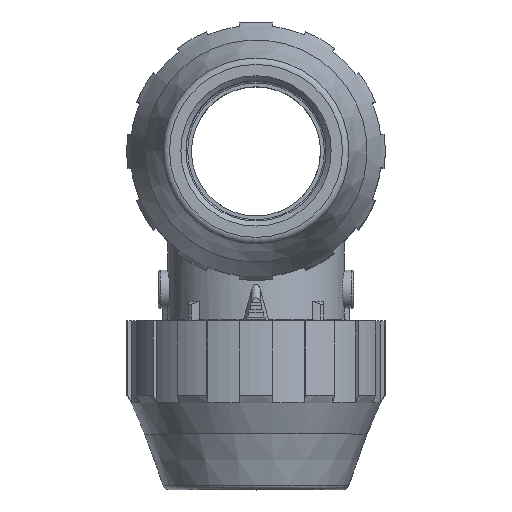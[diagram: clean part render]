
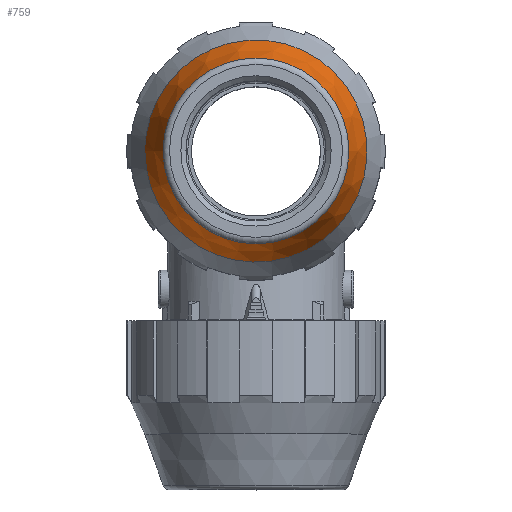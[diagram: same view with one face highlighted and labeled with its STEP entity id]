
A CAD part, top view. The second image highlights one B-rep face of the part: STEP entity #759.
In plain terms, the highlighted conical face has half-angle 19.587 degrees and reference radius 16.34 mm.
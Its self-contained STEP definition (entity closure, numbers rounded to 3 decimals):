
#759 = ADVANCED_FACE( '', ( #1837, #1838 ), #1839, .T. );
#1837 = FACE_OUTER_BOUND( '', #3692, .T. );
#1838 = FACE_BOUND( '', #3693, .T. );
#1839 = CONICAL_SURFACE( '', #3694, 16.34, 0.342 );
#3692 = EDGE_LOOP( '', ( #5889 ) );
#3693 = EDGE_LOOP( '', ( #5890 ) );
#3694 = AXIS2_PLACEMENT_3D( '', #5891, #5892, #5893 );
#5889 = ORIENTED_EDGE( '', *, *, #9619, .F. );
#5890 = ORIENTED_EDGE( '', *, *, #9620, .T. );
#5891 = CARTESIAN_POINT( '', ( 0., 0., 6.754 ) );
#5892 = DIRECTION( '', ( 0., 0., -1. ) );
#5893 = DIRECTION( '', ( -1., 0., 0. ) );
#9619 = EDGE_CURVE( '', #11471, #11471, #11472, .T. );
#9620 = EDGE_CURVE( '', #11473, #11473, #11474, .T. );
#11471 = VERTEX_POINT( '', #14114 );
#11472 = CIRCLE( '', #14115, 16.34 );
#11473 = VERTEX_POINT( '', #14116 );
#11474 = CIRCLE( '', #14117, 13.659 );
#14114 = CARTESIAN_POINT( '', ( -16.34, 0., 6.754 ) );
#14115 = AXIS2_PLACEMENT_3D( '', #17132, #17133, #17134 );
#14116 = CARTESIAN_POINT( '', ( -13.659, 0., 14.287 ) );
#14117 = AXIS2_PLACEMENT_3D( '', #17135, #17136, #17137 );
#17132 = CARTESIAN_POINT( '', ( 0., 0., 6.754 ) );
#17133 = DIRECTION( '', ( 0., 0., -1. ) );
#17134 = DIRECTION( '', ( -1., 0., 0. ) );
#17135 = CARTESIAN_POINT( '', ( 0., 0., 14.287 ) );
#17136 = DIRECTION( '', ( 0., 0., -1. ) );
#17137 = DIRECTION( '', ( -1., 0., 0. ) );
